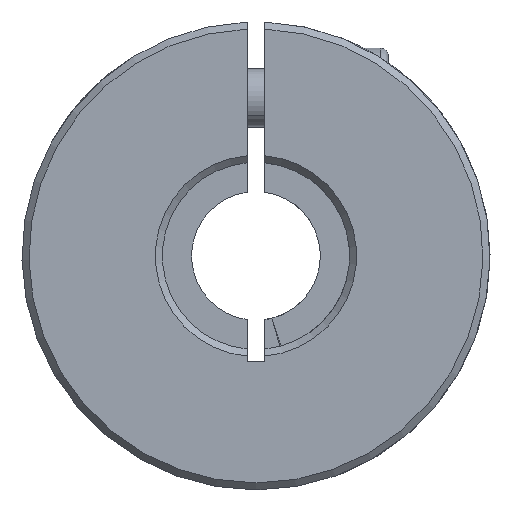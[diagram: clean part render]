
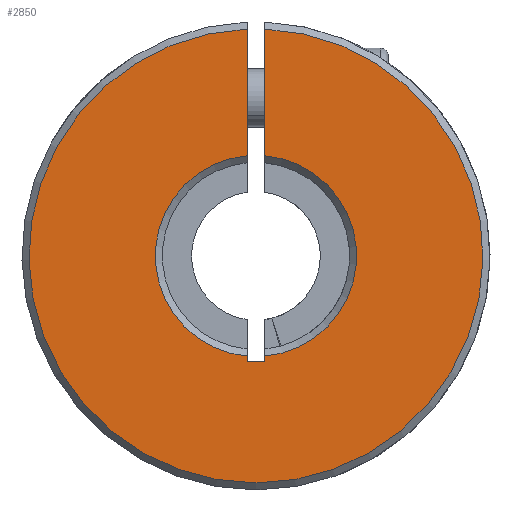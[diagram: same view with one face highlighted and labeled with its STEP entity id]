
A CAD part, front view. The second image highlights one B-rep face of the part: STEP entity #2850.
In plain terms, the highlighted planar face has unit normal (0, -1, 0).
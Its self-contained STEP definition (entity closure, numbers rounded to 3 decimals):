
#137 = CARTESIAN_POINT ( 'NONE',  ( 0.75, -25., -9. ) ) ;
#145 = VERTEX_POINT ( 'NONE', #2598 ) ;
#220 = VERTEX_POINT ( 'NONE', #4611 ) ;
#347 = VECTOR ( 'NONE', #5676, 1000. ) ;
#363 = VERTEX_POINT ( 'NONE', #1931 ) ;
#499 = ORIENTED_EDGE ( 'NONE', *, *, #5415, .T. ) ;
#712 = LINE ( 'NONE', #2627, #5660 ) ;
#728 = ORIENTED_EDGE ( 'NONE', *, *, #5049, .T. ) ;
#809 = DIRECTION ( 'NONE',  ( 0., 1., 0. ) ) ;
#860 = VECTOR ( 'NONE', #1895, 1000. ) ;
#885 = VERTEX_POINT ( 'NONE', #5953 ) ;
#894 = AXIS2_PLACEMENT_3D ( 'NONE', #3610, #3148, #2253 ) ;
#976 = DIRECTION ( 'NONE',  ( 0., -1., 0. ) ) ;
#1073 = LINE ( 'NONE', #3787, #347 ) ;
#1092 = VECTOR ( 'NONE', #5473, 1000. ) ;
#1160 = CIRCLE ( 'NONE', #3199, 19.4 ) ;
#1318 = CARTESIAN_POINT ( 'NONE',  ( 0.75, -25., 19.385 ) ) ;
#1327 = ORIENTED_EDGE ( 'NONE', *, *, #3078, .T. ) ;
#1331 = CARTESIAN_POINT ( 'NONE',  ( -0.75, -25., -9. ) ) ;
#1360 = AXIS2_PLACEMENT_3D ( 'NONE', #3118, #809, #2655 ) ;
#1403 = DIRECTION ( 'NONE',  ( 0., 0., 1. ) ) ;
#1436 = EDGE_LOOP ( 'NONE', ( #3503, #728, #1954, #1327, #1732, #3326, #3912, #499 ) ) ;
#1500 = VERTEX_POINT ( 'NONE', #1660 ) ;
#1508 = VERTEX_POINT ( 'NONE', #2556 ) ;
#1618 = VERTEX_POINT ( 'NONE', #1318 ) ;
#1641 = CIRCLE ( 'NONE', #3484, 8.6 ) ;
#1660 = CARTESIAN_POINT ( 'NONE',  ( 0.75, -25., -9. ) ) ;
#1732 = ORIENTED_EDGE ( 'NONE', *, *, #3507, .T. ) ;
#1753 = PLANE ( 'NONE',  #894 ) ;
#1772 = DIRECTION ( 'NONE',  ( 0., 1., 0. ) ) ;
#1777 = EDGE_CURVE ( 'NONE', #1618, #885, #1073, .T. ) ;
#1895 = DIRECTION ( 'NONE',  ( 0., 0., -1. ) ) ;
#1931 = CARTESIAN_POINT ( 'NONE',  ( -0.75, -25., 8.567 ) ) ;
#1932 = LINE ( 'NONE', #137, #860 ) ;
#1954 = ORIENTED_EDGE ( 'NONE', *, *, #4689, .T. ) ;
#2253 = DIRECTION ( 'NONE',  ( 0., 0., 1. ) ) ;
#2287 = DIRECTION ( 'NONE',  ( -1., 0., 0. ) ) ;
#2556 = CARTESIAN_POINT ( 'NONE',  ( -0.75, -25., -9. ) ) ;
#2562 = DIRECTION ( 'NONE',  ( 0., 0., 1. ) ) ;
#2598 = CARTESIAN_POINT ( 'NONE',  ( -0.75, -25., 19.385 ) ) ;
#2614 = CIRCLE ( 'NONE', #1360, 8.6 ) ;
#2627 = CARTESIAN_POINT ( 'NONE',  ( -0.75, -25., -9. ) ) ;
#2655 = DIRECTION ( 'NONE',  ( 0., 0., 1. ) ) ;
#2850 = ADVANCED_FACE ( 'NONE', ( #3119 ), #1753, .F. ) ;
#3052 = VERTEX_POINT ( 'NONE', #3589 ) ;
#3078 = EDGE_CURVE ( 'NONE', #1500, #1508, #4205, .T. ) ;
#3118 = CARTESIAN_POINT ( 'NONE',  ( 0., -25., 0. ) ) ;
#3119 = FACE_OUTER_BOUND ( 'NONE', #1436, .T. ) ;
#3148 = DIRECTION ( 'NONE',  ( 0., 1., 0. ) ) ;
#3199 = AXIS2_PLACEMENT_3D ( 'NONE', #5124, #976, #1403 ) ;
#3210 = DIRECTION ( 'NONE',  ( 0., 0., 1. ) ) ;
#3326 = ORIENTED_EDGE ( 'NONE', *, *, #5967, .T. ) ;
#3381 = EDGE_CURVE ( 'NONE', #363, #145, #712, .T. ) ;
#3484 = AXIS2_PLACEMENT_3D ( 'NONE', #5962, #1772, #3210 ) ;
#3503 = ORIENTED_EDGE ( 'NONE', *, *, #1777, .T. ) ;
#3507 = EDGE_CURVE ( 'NONE', #1508, #220, #3613, .T. ) ;
#3589 = CARTESIAN_POINT ( 'NONE',  ( 0.75, -25., -8.567 ) ) ;
#3610 = CARTESIAN_POINT ( 'NONE',  ( 0., -25., 0. ) ) ;
#3613 = LINE ( 'NONE', #5584, #1092 ) ;
#3787 = CARTESIAN_POINT ( 'NONE',  ( 0.75, -25., -9. ) ) ;
#3912 = ORIENTED_EDGE ( 'NONE', *, *, #3381, .T. ) ;
#4205 = LINE ( 'NONE', #1331, #4807 ) ;
#4611 = CARTESIAN_POINT ( 'NONE',  ( -0.75, -25., -8.567 ) ) ;
#4689 = EDGE_CURVE ( 'NONE', #3052, #1500, #1932, .T. ) ;
#4807 = VECTOR ( 'NONE', #2287, 1000. ) ;
#5049 = EDGE_CURVE ( 'NONE', #885, #3052, #1641, .T. ) ;
#5124 = CARTESIAN_POINT ( 'NONE',  ( 0., -25., 0. ) ) ;
#5415 = EDGE_CURVE ( 'NONE', #145, #1618, #1160, .T. ) ;
#5473 = DIRECTION ( 'NONE',  ( 0., 0., 1. ) ) ;
#5584 = CARTESIAN_POINT ( 'NONE',  ( -0.75, -25., -9. ) ) ;
#5660 = VECTOR ( 'NONE', #2562, 1000. ) ;
#5676 = DIRECTION ( 'NONE',  ( 0., 0., -1. ) ) ;
#5953 = CARTESIAN_POINT ( 'NONE',  ( 0.75, -25., 8.567 ) ) ;
#5962 = CARTESIAN_POINT ( 'NONE',  ( 0., -25., 0. ) ) ;
#5967 = EDGE_CURVE ( 'NONE', #220, #363, #2614, .T. ) ;
